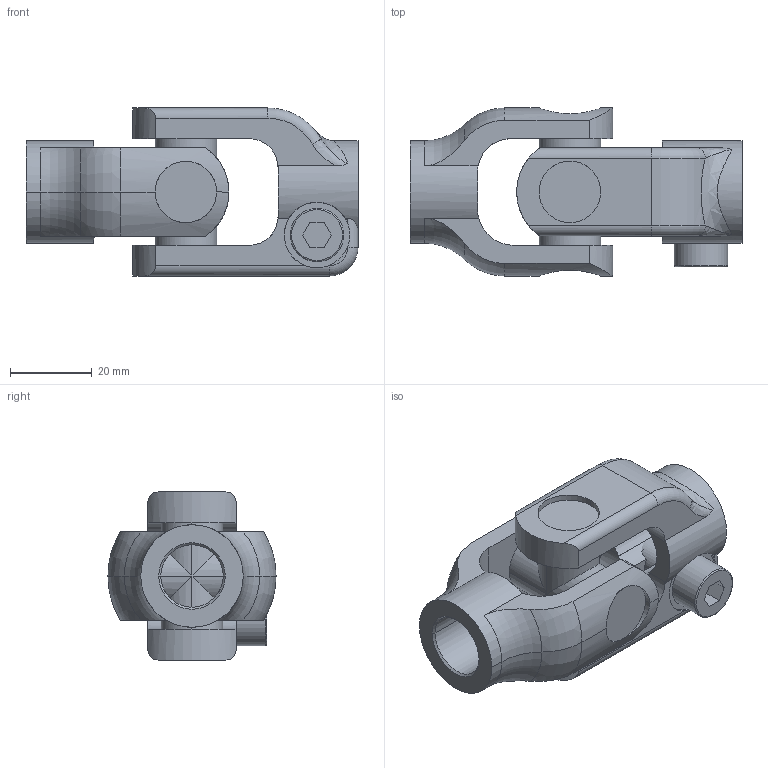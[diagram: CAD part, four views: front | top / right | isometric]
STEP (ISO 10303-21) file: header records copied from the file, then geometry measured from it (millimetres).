
FILE_DESCRIPTION(('CATIA V5 STEP Exchange','CAx-IF Rec.Pracs.--- Model Styling and Organization---1.5--- 2016-08-15','CAx-IF Rec.Pracs.---Supplemental Geometry---1.0---2011-11-01','CAx-IF Rec.Pracs.--- Composite Materials ---1.1---2010-07-15'),'2;1');
FILE_NAME('\\arj-synology-1\ARJ社内Project\市販用 C-EPS 小型\ユニバーサルジョイント\ZU30_UNIVERSAL_JOINT_BOLT-WELD.stp','2026-03-06T08:58:22+00:00',('none'),('none'),'CATIA Version 5-6 Release 2022 SP4','CATIA V5 STEP AP214 v3','none');
FILE_SCHEMA(('AUTOMOTIVE_DESIGN { 1 0 10303 214 1 1 1 1 }'));
Length unit declared in the file: millimetre
Products named in the file (1): ZU30_UNIVERSAL_JOINT_BOLT-WELD
Bounding box: 81 x 41 x 41 mm (x, y, z)
Volume: 44094.7 mm3; surface area: 19572.2 mm2
Topology: 4 solids, 4 shells, 127 faces, 334 edges, 210 vertices
Faces by surface type: cylinder 60, plane 42, torus 14, cone 8, bspline 3
Entity records: 4519 total; most frequent: CARTESIAN_POINT 1659, ORIENTED_EDGE 668, DIRECTION 425, EDGE_CURVE 334, VERTEX_POINT 210, AXIS2_PLACEMENT_3D 205, VECTOR 144, LINE 144
